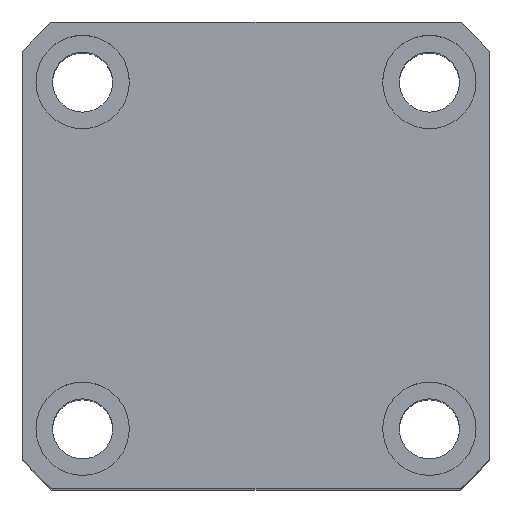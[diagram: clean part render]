
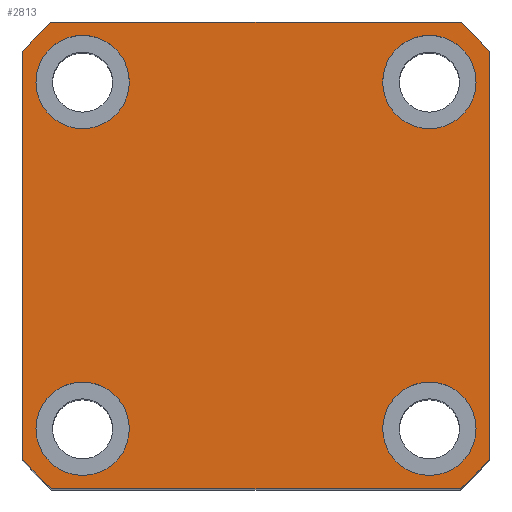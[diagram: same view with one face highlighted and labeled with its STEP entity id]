
A CAD part, top view. The second image highlights one B-rep face of the part: STEP entity #2813.
In plain terms, the highlighted planar face has unit normal (0, 0, 1).
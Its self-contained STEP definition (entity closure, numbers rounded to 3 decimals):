
#42 = VERTEX_POINT ( 'NONE', #2765 ) ;
#74 = CARTESIAN_POINT ( 'NONE',  ( -33., 26., 105. ) ) ;
#84 = VERTEX_POINT ( 'NONE', #10228 ) ;
#168 = EDGE_CURVE ( 'NONE', #10761, #11025, #5442, .T. ) ;
#301 = FACE_BOUND ( 'NONE', #8428, .T. ) ;
#355 = DIRECTION ( 'NONE',  ( 1., 0., 0. ) ) ;
#495 = VERTEX_POINT ( 'NONE', #13401 ) ;
#805 = VERTEX_POINT ( 'NONE', #8777 ) ;
#875 = CIRCLE ( 'NONE', #4473, 7. ) ;
#886 = CARTESIAN_POINT ( 'NONE',  ( 0., 0., 105. ) ) ;
#899 = EDGE_CURVE ( 'NONE', #4075, #84, #10244, .T. ) ;
#992 = VERTEX_POINT ( 'NONE', #3906 ) ;
#1069 = DIRECTION ( 'NONE',  ( 0., 0., 1. ) ) ;
#1287 = VERTEX_POINT ( 'NONE', #3495 ) ;
#1296 = EDGE_CURVE ( 'NONE', #7774, #10761, #8584, .T. ) ;
#1392 = EDGE_CURVE ( 'NONE', #11025, #13166, #13195, .T. ) ;
#1732 = AXIS2_PLACEMENT_3D ( 'NONE', #5533, #12943, #6612 ) ;
#1780 = ORIENTED_EDGE ( 'NONE', *, *, #899, .F. ) ;
#1796 = LINE ( 'NONE', #8458, #7422 ) ;
#1994 = DIRECTION ( 'NONE',  ( 0., 0., 1. ) ) ;
#2111 = EDGE_CURVE ( 'NONE', #13166, #805, #1796, .T. ) ;
#2162 = VECTOR ( 'NONE', #8007, 1000. ) ;
#2232 = ORIENTED_EDGE ( 'NONE', *, *, #5324, .F. ) ;
#2350 = DIRECTION ( 'NONE',  ( 0., 0., 1. ) ) ;
#2419 = DIRECTION ( 'NONE',  ( 0., 0., 1. ) ) ;
#2441 = CARTESIAN_POINT ( 'NONE',  ( -19., 26., 105. ) ) ;
#2574 = ORIENTED_EDGE ( 'NONE', *, *, #4796, .T. ) ;
#2581 = VERTEX_POINT ( 'NONE', #10212 ) ;
#2765 = CARTESIAN_POINT ( 'NONE',  ( -19., -26., 105. ) ) ;
#2813 = ADVANCED_FACE ( 'NONE', ( #11533, #301, #8741, #11195, #8395 ), #11466, .T. ) ;
#2868 = CARTESIAN_POINT ( 'NONE',  ( 0., 0., 105. ) ) ;
#2954 = CARTESIAN_POINT ( 'NONE',  ( -26., 26., 105. ) ) ;
#3233 = ORIENTED_EDGE ( 'NONE', *, *, #1392, .T. ) ;
#3442 = CARTESIAN_POINT ( 'NONE',  ( 0., 0., 105. ) ) ;
#3495 = CARTESIAN_POINT ( 'NONE',  ( 30.615, -35., 105. ) ) ;
#3730 = CARTESIAN_POINT ( 'NONE',  ( 33., -26., 105. ) ) ;
#3743 = ORIENTED_EDGE ( 'NONE', *, *, #5566, .T. ) ;
#3747 = EDGE_CURVE ( 'NONE', #10360, #10279, #4210, .T. ) ;
#3831 = EDGE_LOOP ( 'NONE', ( #2574, #9042, #11161, #3233, #4504, #3743, #6854, #10008 ) ) ;
#3906 = CARTESIAN_POINT ( 'NONE',  ( -33., -26., 105. ) ) ;
#4008 = CIRCLE ( 'NONE', #1732, 46.5 ) ;
#4028 = DIRECTION ( 'NONE',  ( 1., 0., 0. ) ) ;
#4065 = AXIS2_PLACEMENT_3D ( 'NONE', #8201, #6499, #8537 ) ;
#4075 = VERTEX_POINT ( 'NONE', #9166 ) ;
#4118 = ORIENTED_EDGE ( 'NONE', *, *, #5128, .F. ) ;
#4188 = CARTESIAN_POINT ( 'NONE',  ( -30.615, 35., 105. ) ) ;
#4210 = CIRCLE ( 'NONE', #6696, 7. ) ;
#4419 = ORIENTED_EDGE ( 'NONE', *, *, #4426, .F. ) ;
#4426 = EDGE_CURVE ( 'NONE', #42, #992, #12800, .T. ) ;
#4473 = AXIS2_PLACEMENT_3D ( 'NONE', #4885, #12302, #5957 ) ;
#4504 = ORIENTED_EDGE ( 'NONE', *, *, #2111, .T. ) ;
#4510 = DIRECTION ( 'NONE',  ( 1., 0., 0. ) ) ;
#4796 = EDGE_CURVE ( 'NONE', #2581, #7774, #8314, .T. ) ;
#4799 = AXIS2_PLACEMENT_3D ( 'NONE', #11402, #5046, #12479 ) ;
#4834 = DIRECTION ( 'NONE',  ( -1., 0., 0. ) ) ;
#4885 = CARTESIAN_POINT ( 'NONE',  ( -26., 26., 105. ) ) ;
#4951 = AXIS2_PLACEMENT_3D ( 'NONE', #3442, #10844, #4510 ) ;
#5046 = DIRECTION ( 'NONE',  ( 0., 0., 1. ) ) ;
#5109 = DIRECTION ( 'NONE',  ( 0., 0., 1. ) ) ;
#5128 = EDGE_CURVE ( 'NONE', #84, #4075, #11635, .T. ) ;
#5206 = AXIS2_PLACEMENT_3D ( 'NONE', #2868, #7834, #355 ) ;
#5324 = EDGE_CURVE ( 'NONE', #992, #42, #13108, .T. ) ;
#5442 = LINE ( 'NONE', #12249, #8594 ) ;
#5507 = VECTOR ( 'NONE', #7689, 1000. ) ;
#5533 = CARTESIAN_POINT ( 'NONE',  ( 0., 0., 105. ) ) ;
#5566 = EDGE_CURVE ( 'NONE', #805, #11205, #4008, .T. ) ;
#5853 = AXIS2_PLACEMENT_3D ( 'NONE', #8753, #2419, #9828 ) ;
#5957 = DIRECTION ( 'NONE',  ( 1., 0., 0. ) ) ;
#6165 = VERTEX_POINT ( 'NONE', #3730 ) ;
#6411 = AXIS2_PLACEMENT_3D ( 'NONE', #8675, #2350, #9757 ) ;
#6499 = DIRECTION ( 'NONE',  ( 0., 0., 1. ) ) ;
#6514 = AXIS2_PLACEMENT_3D ( 'NONE', #886, #5109, #12548 ) ;
#6549 = CARTESIAN_POINT ( 'NONE',  ( 35., 30.615, 105. ) ) ;
#6612 = DIRECTION ( 'NONE',  ( 1., 0., 0. ) ) ;
#6627 = CARTESIAN_POINT ( 'NONE',  ( 35., 35., 105. ) ) ;
#6696 = AXIS2_PLACEMENT_3D ( 'NONE', #2954, #10372, #4028 ) ;
#6722 = ORIENTED_EDGE ( 'NONE', *, *, #3747, .F. ) ;
#6810 = CARTESIAN_POINT ( 'NONE',  ( -30.615, -35., 105. ) ) ;
#6854 = ORIENTED_EDGE ( 'NONE', *, *, #7979, .T. ) ;
#6946 = CARTESIAN_POINT ( 'NONE',  ( -35., -35., 105. ) ) ;
#7097 = EDGE_LOOP ( 'NONE', ( #4419, #2232 ) ) ;
#7151 = EDGE_CURVE ( 'NONE', #495, #6165, #9425, .T. ) ;
#7402 = CARTESIAN_POINT ( 'NONE',  ( -26., -26., 105. ) ) ;
#7422 = VECTOR ( 'NONE', #8506, 1000. ) ;
#7689 = DIRECTION ( 'NONE',  ( 0., 1., 0. ) ) ;
#7774 = VERTEX_POINT ( 'NONE', #6549 ) ;
#7781 = LINE ( 'NONE', #6946, #2162 ) ;
#7791 = DIRECTION ( 'NONE',  ( 1., 0., 0. ) ) ;
#7834 = DIRECTION ( 'NONE',  ( 0., 0., 1. ) ) ;
#7849 = ORIENTED_EDGE ( 'NONE', *, *, #9104, .F. ) ;
#7979 = EDGE_CURVE ( 'NONE', #11205, #1287, #7781, .T. ) ;
#8007 = DIRECTION ( 'NONE',  ( 1., 0., 0. ) ) ;
#8069 = CIRCLE ( 'NONE', #4951, 46.5 ) ;
#8201 = CARTESIAN_POINT ( 'NONE',  ( 26., 26., 105. ) ) ;
#8313 = CARTESIAN_POINT ( 'NONE',  ( 26., -26., 105. ) ) ;
#8314 = LINE ( 'NONE', #6627, #5507 ) ;
#8395 = FACE_OUTER_BOUND ( 'NONE', #3831, .T. ) ;
#8428 = EDGE_LOOP ( 'NONE', ( #7849, #11083 ) ) ;
#8457 = DIRECTION ( 'NONE',  ( 1., 0., 0. ) ) ;
#8458 = CARTESIAN_POINT ( 'NONE',  ( -35., 35., 105. ) ) ;
#8506 = DIRECTION ( 'NONE',  ( 0., -1., 0. ) ) ;
#8515 = ORIENTED_EDGE ( 'NONE', *, *, #11283, .F. ) ;
#8537 = DIRECTION ( 'NONE',  ( 1., 0., 0. ) ) ;
#8584 = CIRCLE ( 'NONE', #5206, 46.5 ) ;
#8594 = VECTOR ( 'NONE', #4834, 1000. ) ;
#8675 = CARTESIAN_POINT ( 'NONE',  ( 26., -26., 105. ) ) ;
#8741 = FACE_BOUND ( 'NONE', #12620, .T. ) ;
#8753 = CARTESIAN_POINT ( 'NONE',  ( -26., -26., 105. ) ) ;
#8777 = CARTESIAN_POINT ( 'NONE',  ( -35., -30.615, 105. ) ) ;
#8992 = DIRECTION ( 'NONE',  ( 0., 0., 1. ) ) ;
#9042 = ORIENTED_EDGE ( 'NONE', *, *, #1296, .T. ) ;
#9104 = EDGE_CURVE ( 'NONE', #6165, #495, #9705, .T. ) ;
#9166 = CARTESIAN_POINT ( 'NONE',  ( 19., 26., 105. ) ) ;
#9390 = DIRECTION ( 'NONE',  ( 1., 0., 0. ) ) ;
#9425 = CIRCLE ( 'NONE', #12699, 7. ) ;
#9705 = CIRCLE ( 'NONE', #6411, 7. ) ;
#9757 = DIRECTION ( 'NONE',  ( 1., 0., 0. ) ) ;
#9828 = DIRECTION ( 'NONE',  ( 1., 0., 0. ) ) ;
#10008 = ORIENTED_EDGE ( 'NONE', *, *, #10346, .T. ) ;
#10158 = CARTESIAN_POINT ( 'NONE',  ( 30.615, 35., 105. ) ) ;
#10193 = AXIS2_PLACEMENT_3D ( 'NONE', #12260, #8992, #7791 ) ;
#10212 = CARTESIAN_POINT ( 'NONE',  ( 35., -30.615, 105. ) ) ;
#10228 = CARTESIAN_POINT ( 'NONE',  ( 33., 26., 105. ) ) ;
#10244 = CIRCLE ( 'NONE', #4065, 7. ) ;
#10279 = VERTEX_POINT ( 'NONE', #74 ) ;
#10346 = EDGE_CURVE ( 'NONE', #1287, #2581, #8069, .T. ) ;
#10360 = VERTEX_POINT ( 'NONE', #2441 ) ;
#10372 = DIRECTION ( 'NONE',  ( 0., 0., 1. ) ) ;
#10761 = VERTEX_POINT ( 'NONE', #10158 ) ;
#10844 = DIRECTION ( 'NONE',  ( 0., 0., 1. ) ) ;
#11025 = VERTEX_POINT ( 'NONE', #4188 ) ;
#11083 = ORIENTED_EDGE ( 'NONE', *, *, #7151, .F. ) ;
#11161 = ORIENTED_EDGE ( 'NONE', *, *, #168, .T. ) ;
#11195 = FACE_BOUND ( 'NONE', #13348, .T. ) ;
#11205 = VERTEX_POINT ( 'NONE', #6810 ) ;
#11283 = EDGE_CURVE ( 'NONE', #10279, #10360, #875, .T. ) ;
#11402 = CARTESIAN_POINT ( 'NONE',  ( 26., 26., 105. ) ) ;
#11466 = PLANE ( 'NONE',  #6514 ) ;
#11533 = FACE_BOUND ( 'NONE', #7097, .T. ) ;
#11635 = CIRCLE ( 'NONE', #4799, 7. ) ;
#12249 = CARTESIAN_POINT ( 'NONE',  ( -35., 35., 105. ) ) ;
#12260 = CARTESIAN_POINT ( 'NONE',  ( 0., 0., 105. ) ) ;
#12302 = DIRECTION ( 'NONE',  ( 0., 0., 1. ) ) ;
#12479 = DIRECTION ( 'NONE',  ( 1., 0., 0. ) ) ;
#12548 = DIRECTION ( 'NONE',  ( 1., 0., 0. ) ) ;
#12620 = EDGE_LOOP ( 'NONE', ( #4118, #1780 ) ) ;
#12641 = AXIS2_PLACEMENT_3D ( 'NONE', #7402, #1069, #8457 ) ;
#12699 = AXIS2_PLACEMENT_3D ( 'NONE', #8313, #1994, #9390 ) ;
#12800 = CIRCLE ( 'NONE', #5853, 7. ) ;
#12943 = DIRECTION ( 'NONE',  ( 0., 0., 1. ) ) ;
#13108 = CIRCLE ( 'NONE', #12641, 7. ) ;
#13166 = VERTEX_POINT ( 'NONE', #13297 ) ;
#13195 = CIRCLE ( 'NONE', #10193, 46.5 ) ;
#13297 = CARTESIAN_POINT ( 'NONE',  ( -35., 30.615, 105. ) ) ;
#13348 = EDGE_LOOP ( 'NONE', ( #6722, #8515 ) ) ;
#13401 = CARTESIAN_POINT ( 'NONE',  ( 19., -26., 105. ) ) ;
